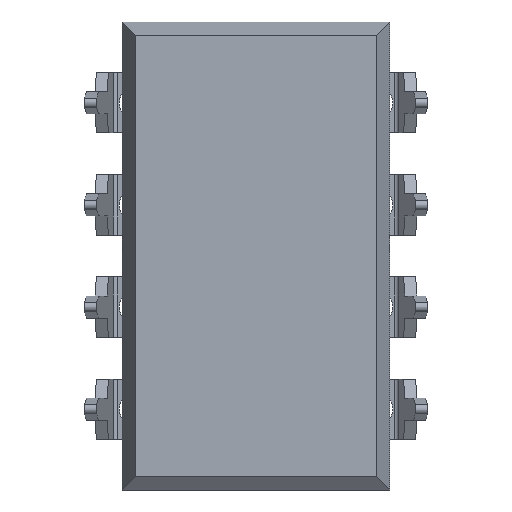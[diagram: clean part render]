
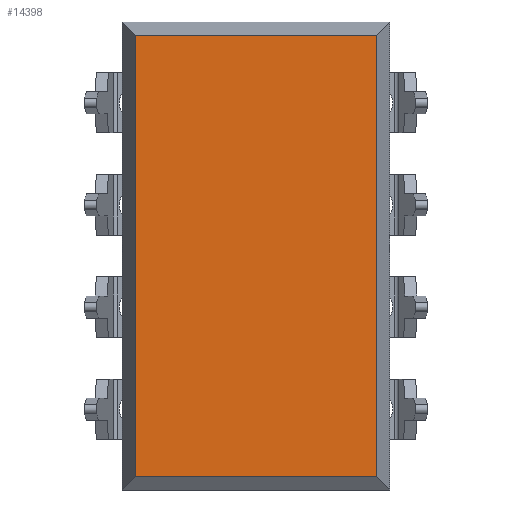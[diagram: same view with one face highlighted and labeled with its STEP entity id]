
A CAD part, front view. The second image highlights one B-rep face of the part: STEP entity #14398.
In plain terms, the highlighted planar face has unit normal (0, -1, 0).
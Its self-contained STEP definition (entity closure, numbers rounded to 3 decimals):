
#1527 = ORIENTED_EDGE ( 'NONE', *, *, #12722, .T. ) ;
#3004 = DIRECTION ( 'NONE',  ( -1., 0., 0. ) ) ;
#3599 = DIRECTION ( 'NONE',  ( 0., 1., 0. ) ) ;
#3819 = LINE ( 'NONE', #10429, #11810 ) ;
#4358 = VERTEX_POINT ( 'NONE', #15936 ) ;
#5068 = CARTESIAN_POINT ( 'NONE',  ( 2.997, 0., 11.64 ) ) ;
#5220 = FACE_OUTER_BOUND ( 'NONE', #9686, .T. ) ;
#5665 = DIRECTION ( 'NONE',  ( -1., 0., 0. ) ) ;
#6230 = AXIS2_PLACEMENT_3D ( 'NONE', #18470, #3599, #10215 ) ;
#6318 = CARTESIAN_POINT ( 'NONE',  ( -2.997, 0., 11.312 ) ) ;
#6726 = VERTEX_POINT ( 'NONE', #6318 ) ;
#9686 = EDGE_LOOP ( 'NONE', ( #10886, #12275, #1527, #15316 ) ) ;
#10215 = DIRECTION ( 'NONE',  ( 0., 0., 1. ) ) ;
#10429 = CARTESIAN_POINT ( 'NONE',  ( -2.997, 0., 11.64 ) ) ;
#10599 = VECTOR ( 'NONE', #11681, 1000. ) ;
#10886 = ORIENTED_EDGE ( 'NONE', *, *, #18632, .F. ) ;
#11246 = LINE ( 'NONE', #17878, #15493 ) ;
#11681 = DIRECTION ( 'NONE',  ( 0., 0., -1. ) ) ;
#11810 = VECTOR ( 'NONE', #17048, 1000. ) ;
#11833 = PLANE ( 'NONE',  #6230 ) ;
#12275 = ORIENTED_EDGE ( 'NONE', *, *, #18951, .T. ) ;
#12722 = EDGE_CURVE ( 'NONE', #6726, #17523, #3819, .T. ) ;
#13907 = LINE ( 'NONE', #20531, #20663 ) ;
#14191 = VERTEX_POINT ( 'NONE', #17310 ) ;
#14398 = ADVANCED_FACE ( 'NONE', ( #5220 ), #11833, .F. ) ;
#15316 = ORIENTED_EDGE ( 'NONE', *, *, #16246, .F. ) ;
#15493 = VECTOR ( 'NONE', #3004, 1000. ) ;
#15936 = CARTESIAN_POINT ( 'NONE',  ( 2.997, 0., 0.328 ) ) ;
#16246 = EDGE_CURVE ( 'NONE', #4358, #17523, #11246, .T. ) ;
#16380 = CARTESIAN_POINT ( 'NONE',  ( -2.997, 0., 0.328 ) ) ;
#17048 = DIRECTION ( 'NONE',  ( 0., 0., -1. ) ) ;
#17310 = CARTESIAN_POINT ( 'NONE',  ( 2.997, 0., 11.312 ) ) ;
#17523 = VERTEX_POINT ( 'NONE', #16380 ) ;
#17878 = CARTESIAN_POINT ( 'NONE',  ( 3.325, 0., 0.328 ) ) ;
#18470 = CARTESIAN_POINT ( 'NONE',  ( -2.997, 0., 11.64 ) ) ;
#18632 = EDGE_CURVE ( 'NONE', #14191, #4358, #19939, .T. ) ;
#18951 = EDGE_CURVE ( 'NONE', #14191, #6726, #13907, .T. ) ;
#19939 = LINE ( 'NONE', #5068, #10599 ) ;
#20531 = CARTESIAN_POINT ( 'NONE',  ( 3.325, 0., 11.312 ) ) ;
#20663 = VECTOR ( 'NONE', #5665, 1000. ) ;
